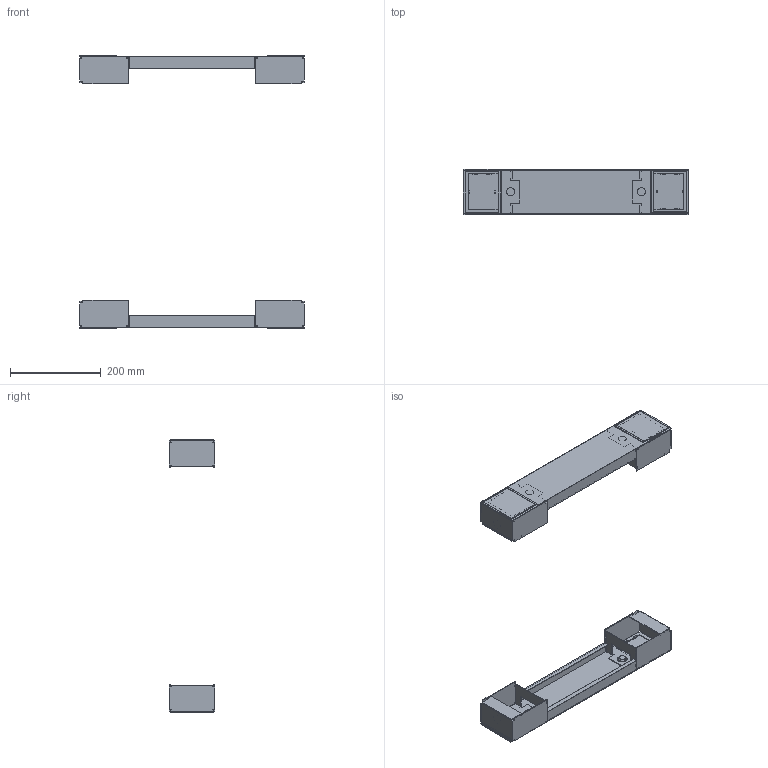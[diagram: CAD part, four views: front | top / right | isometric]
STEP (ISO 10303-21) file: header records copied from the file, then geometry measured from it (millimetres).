
FILE_DESCRIPTION( ( 'STEP AP214' ), '1' );
FILE_NAME( 'p:/temp/worker_245/temp/exporttempdir_2628_78_t4Dnt/format_0/PF1050(0).stp', '2021-03-16T11:13:26', ( 'License CC BY-ND 4.0' ), ( 'CADENAS' ), ' ', 'PARTsolutions', ' ' );
FILE_SCHEMA( ( 'AUTOMOTIVE_DESIGN { 1 0 10303 214 1 1 1 1 }' ) );
Length unit declared in the file: millimetre
Products named in the file (4): PF1050(0); _PF1050(0)_P1; _PF1050(0)_P5; _PF1050(0)_P3
Assembly tree (10 placements, depth 2):
  PF1050(0)
    _PF1050(0)_P1  x2
    _PF1050(0)_P5  x4
    _PF1050(0)_P3  x4
Bounding box: 498 x 100 x 602 mm (x, y, z)
Volume: 466491.5 mm3; surface area: 523565.9 mm2
Topology: 10 solids, 10 shells, 544 faces, 1580 edges, 1056 vertices
Faces by surface type: plane 500, cylinder 36, cone 8
Full cylindrical faces by diameter (mm): 18 x4
Entity records: 6114 total; most frequent: CARTESIAN_POINT 866, ORIENTED_EDGE 844, DIRECTION 766, EDGE_CURVE 422, LINE 398, VECTOR 398, VERTEX_POINT 284, AXIS2_PLACEMENT_3D 184
